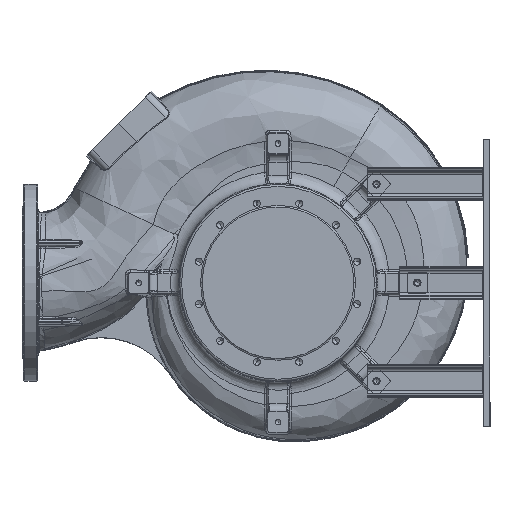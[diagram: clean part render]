
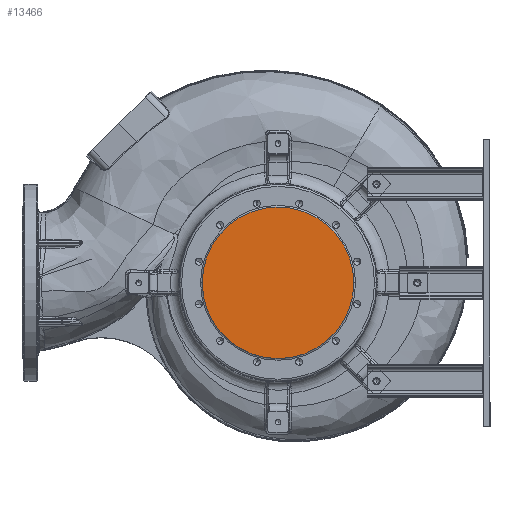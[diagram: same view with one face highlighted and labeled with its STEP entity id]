
A CAD part, left-side view. The second image highlights one B-rep face of the part: STEP entity #13466.
In plain terms, the highlighted planar face has unit normal (-1, 0, 0).
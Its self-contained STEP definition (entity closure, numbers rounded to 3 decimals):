
#13466 = ADVANCED_FACE ( 'NONE', ( #66310 ), #37748, .F. ) ;
#13587 = ORIENTED_EDGE ( 'NONE', *, *, #111831, .F. ) ;
#36314 = DIRECTION ( 'NONE',  ( 1., 0., 0. ) ) ;
#37748 = PLANE ( 'NONE',  #143622 ) ;
#38250 = DIRECTION ( 'NONE',  ( 1., 0., 0. ) ) ;
#39020 = AXIS2_PLACEMENT_3D ( 'NONE', #103929, #36314, #115304 ) ;
#39414 = DIRECTION ( 'NONE',  ( 1., 0., 0. ) ) ;
#48501 = VERTEX_POINT ( 'NONE', #124929 ) ;
#64155 = EDGE_CURVE ( 'NONE', #48501, #131886, #82496, .T. ) ;
#66310 = FACE_OUTER_BOUND ( 'NONE', #129641, .T. ) ;
#82496 = CIRCLE ( 'NONE', #131900, 185. ) ;
#103929 = CARTESIAN_POINT ( 'NONE',  ( 0., -625., 0. ) ) ;
#105857 = CARTESIAN_POINT ( 'NONE',  ( 0., -625., 0. ) ) ;
#107011 = CARTESIAN_POINT ( 'NONE',  ( 0., -625., 0. ) ) ;
#111831 = EDGE_CURVE ( 'NONE', #131886, #48501, #112346, .T. ) ;
#112346 = CIRCLE ( 'NONE', #39020, 185. ) ;
#115304 = DIRECTION ( 'NONE',  ( 0., -1., 0. ) ) ;
#117242 = DIRECTION ( 'NONE',  ( 0., -1., 0. ) ) ;
#118388 = DIRECTION ( 'NONE',  ( 0., -1., 0. ) ) ;
#124929 = CARTESIAN_POINT ( 'NONE',  ( 0., -810., 0. ) ) ;
#129318 = CARTESIAN_POINT ( 'NONE',  ( 0., -440., 0. ) ) ;
#129641 = EDGE_LOOP ( 'NONE', ( #140245, #13587 ) ) ;
#131886 = VERTEX_POINT ( 'NONE', #129318 ) ;
#131900 = AXIS2_PLACEMENT_3D ( 'NONE', #107011, #39414, #118388 ) ;
#140245 = ORIENTED_EDGE ( 'NONE', *, *, #64155, .F. ) ;
#143622 = AXIS2_PLACEMENT_3D ( 'NONE', #105857, #38250, #117242 ) ;
